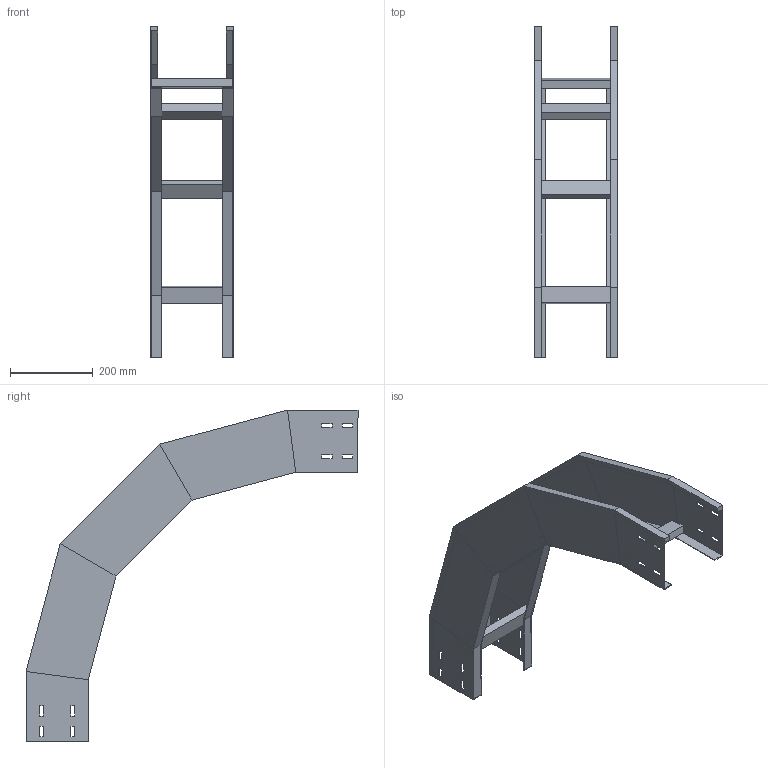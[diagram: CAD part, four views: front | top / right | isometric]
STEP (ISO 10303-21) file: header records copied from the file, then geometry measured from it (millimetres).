
FILE_DESCRIPTION (( 'STEP AP214' ), '1' );
FILE_NAME ('33J5F200.step', '2025-02-21T16:22:58', ( '' ), ( '' ), 'SwSTEP 2.0', 'SolidWorks 2023', '' );
FILE_SCHEMA (( 'AUTOMOTIVE_DESIGN' ));
Length unit declared in the file: millimetre
Products named in the file (3): LONGH.DISCESA_90°_H150_R500; 33J5F200; TRAVERSINO_200
Assembly tree (6 placements, depth 2):
  33J5F200
    LONGH.DISCESA_90°_H150_R500  x2
    TRAVERSINO_200  x4
Bounding box: 200 x 800.35 x 800.35 mm (x, y, z)
Volume: 1955781.6 mm3; surface area: 1017710.1 mm2
Topology: 6 solids, 6 shells, 172 faces, 416 edges, 256 vertices
Faces by surface type: plane 172
Entity records: 2416 total; most frequent: CARTESIAN_POINT 405, ORIENTED_EDGE 392, DIRECTION 374, LINE 196, VECTOR 196, EDGE_CURVE 196, VERTEX_POINT 120, EDGE_LOOP 96
